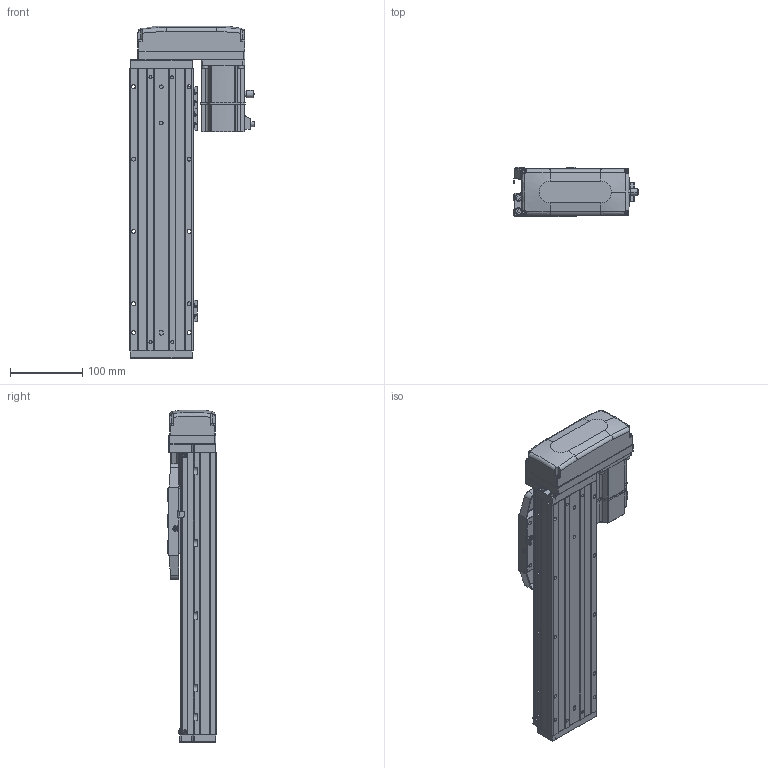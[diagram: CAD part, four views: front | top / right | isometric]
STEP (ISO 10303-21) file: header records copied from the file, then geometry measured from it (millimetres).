
FILE_DESCRIPTION (( 'STEP AP203' ), '1' );
FILE_NAME ('CTHA86-200-BL-M20-C4L.step', '2022-04-26T00:50:25', ( '微软用户' ), ( '微软中国' ), 'SwSTEP 2.0', 'SolidWorks 2020', '' );
FILE_SCHEMA (( 'CONFIG_CONTROL_DESIGN' ));
Length unit declared in the file: millimetre
Products named in the file (21): CTHA60-016; CTHA86-033; CTHA60-021; _X2_4E0983F1_X0_200W_1; CTHA86-200-BL-M20-C4L; KTHA86-001_390; GBT77-2000 M3×3; CTHA86-002; KTHA86-004; GBT 70.1-M3×20; CTHA86-031; KTHA86-005; GBT70.1 M5℅16; CTHA86-030; GB¨uT 70.2-M3¡Á5_M3¡Á6; GBT 70.1-M3×16; GBT 70.3-M3℅6; EE_SX911P_R; GBT 70.1-M3℅6; CTHA86-015-1_CTHA86-015-2; CTHA60-017
Assembly tree (66 placements, depth 2):
  CTHA86-200-BL-M20-C4L
    KTHA86-001_390
    KTHA86-004
    KTHA86-005
    GB¨uT 70.2-M3¡Á5_M3¡Á6  x10
    EE_SX911P_R  x3
    CTHA60-017  x3
    CTHA60-021  x2
    GBT77-2000 M3×3  x6
    GBT 70.1-M3×20
    GBT70.1 M5℅16  x14
    GBT 70.1-M3×16  x5
    GBT 70.1-M3℅6  x6
    CTHA60-016  x2
    _X2_4E0983F1_X0_200W_1
    CTHA86-002
    CTHA86-031
    CTHA86-030  x2
    GBT 70.3-M3℅6  x4
    CTHA86-015-1_CTHA86-015-2
    CTHA86-033
Bounding box: 172.7 x 68 x 459 mm (x, y, z)
Volume: 2202888.6 mm3; surface area: 399785.3 mm2
Topology: 68 solids, 68 shells, 2706 faces, 6428 edges, 3952 vertices
Faces by surface type: plane 1415, cylinder 699, cone 361, torus 132, bspline 75, sphere 24
Entity records: 46497 total; most frequent: CARTESIAN_POINT 9059, DIRECTION 7189, ORIENTED_EDGE 6956, EDGE_CURVE 3478, AXIS2_PLACEMENT_3D 2466, VECTOR 2257, LINE 2257, VERTEX_POINT 2184
